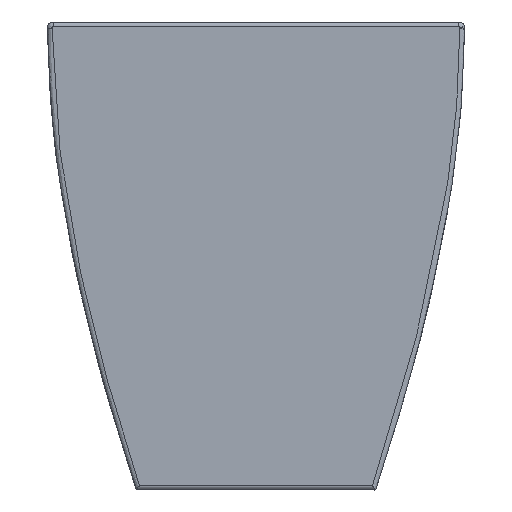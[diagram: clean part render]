
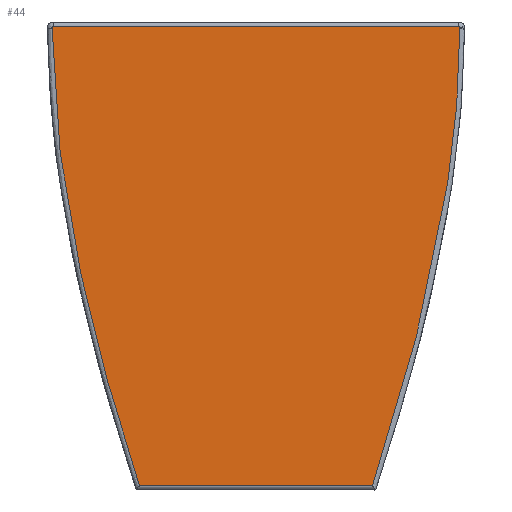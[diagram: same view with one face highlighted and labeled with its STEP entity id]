
A CAD part, front view. The second image highlights one B-rep face of the part: STEP entity #44.
In plain terms, the highlighted planar face has unit normal (0, -1, 0).
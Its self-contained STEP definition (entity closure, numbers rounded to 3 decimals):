
#44=ADVANCED_FACE('',(#84),#548,.T.);
#84=FACE_OUTER_BOUND('',#126,.T.);
#126=EDGE_LOOP('',(#268,#269,#270,#271,#272,#273,#274,#275));
#268=ORIENTED_EDGE('',*,*,#390,.T.);
#269=ORIENTED_EDGE('',*,*,#405,.T.);
#270=ORIENTED_EDGE('',*,*,#400,.T.);
#271=ORIENTED_EDGE('',*,*,#398,.T.);
#272=ORIENTED_EDGE('',*,*,#393,.T.);
#273=ORIENTED_EDGE('',*,*,#397,.T.);
#274=ORIENTED_EDGE('',*,*,#396,.T.);
#275=ORIENTED_EDGE('',*,*,#403,.T.);
#390=EDGE_CURVE('',#530,#531,#610,.T.);
#393=EDGE_CURVE('',#533,#534,#465,.T.);
#396=EDGE_CURVE('',#537,#535,#468,.T.);
#397=EDGE_CURVE('',#534,#537,#469,.T.);
#398=EDGE_CURVE('',#536,#533,#470,.T.);
#400=EDGE_CURVE('',#532,#536,#472,.T.);
#403=EDGE_CURVE('',#535,#530,#474,.T.);
#405=EDGE_CURVE('',#531,#532,#475,.T.);
#465=(
BOUNDED_CURVE()
B_SPLINE_CURVE(1,(#2482,#2483),.UNSPECIFIED.,.F.,.F.)
B_SPLINE_CURVE_WITH_KNOTS((2,2),(0.,355.503),
 .UNSPECIFIED.)
CURVE()
GEOMETRIC_REPRESENTATION_ITEM()
RATIONAL_B_SPLINE_CURVE((1.,1.))
REPRESENTATION_ITEM('')
);
#468=(
BOUNDED_CURVE()
B_SPLINE_CURVE(3,(#2492,#2493,#2494,#2495),.UNSPECIFIED.,.F.,.F.)
B_SPLINE_CURVE_WITH_KNOTS((4,4),(1.797,2.086),
 .UNSPECIFIED.)
CURVE()
GEOMETRIC_REPRESENTATION_ITEM()
RATIONAL_B_SPLINE_CURVE((1.,1.,1.,1.))
REPRESENTATION_ITEM('')
);
#469=(
BOUNDED_CURVE()
B_SPLINE_CURVE(3,(#2496,#2497,#2498,#2499,#2500,#2501,#2502,#2503),
 .UNSPECIFIED.,.F.,.F.)
B_SPLINE_CURVE_WITH_KNOTS((4,1,3,4),(0.,0.889,
1.789,1.797),.UNSPECIFIED.)
CURVE()
GEOMETRIC_REPRESENTATION_ITEM()
RATIONAL_B_SPLINE_CURVE((1.,1.,1.,1.,1.,1.,1.,1.))
REPRESENTATION_ITEM('')
);
#470=(
BOUNDED_CURVE()
B_SPLINE_CURVE(3,(#2504,#2505,#2506,#2507,#2508,#2509,#2510,#2511),
 .UNSPECIFIED.,.F.,.F.)
B_SPLINE_CURVE_WITH_KNOTS((4,3,1,4),(-0.009,-0.001,
0.9,1.8),.UNSPECIFIED.)
CURVE()
GEOMETRIC_REPRESENTATION_ITEM()
RATIONAL_B_SPLINE_CURVE((1.,1.,1.,1.,1.,1.,1.,1.))
REPRESENTATION_ITEM('')
);
#472=(
BOUNDED_CURVE()
B_SPLINE_CURVE(3,(#2517,#2518,#2519,#2520),.UNSPECIFIED.,.F.,.F.)
B_SPLINE_CURVE_WITH_KNOTS((4,4),(-0.366,-0.009),
 .UNSPECIFIED.)
CURVE()
GEOMETRIC_REPRESENTATION_ITEM()
RATIONAL_B_SPLINE_CURVE((1.,1.,1.,1.))
REPRESENTATION_ITEM('')
);
#474=(
BOUNDED_CURVE()
B_SPLINE_CURVE(3,(#2532,#2533,#2534,#2535,#2536,#2537,#2538),
 .UNSPECIFIED.,.F.,.F.)
B_SPLINE_CURVE_WITH_KNOTS((4,3,4),(-0.602,183.591,
408.833),.UNSPECIFIED.)
CURVE()
GEOMETRIC_REPRESENTATION_ITEM()
RATIONAL_B_SPLINE_CURVE((1.,1.,1.,1.,1.,1.,1.))
REPRESENTATION_ITEM('')
);
#475=(
BOUNDED_CURVE()
B_SPLINE_CURVE(3,(#2547,#2548,#2549,#2550,#2551,#2552,#2553),
 .UNSPECIFIED.,.F.,.F.)
B_SPLINE_CURVE_WITH_KNOTS((4,3,4),(2.882,228.127,412.258),
 .UNSPECIFIED.)
CURVE()
GEOMETRIC_REPRESENTATION_ITEM()
RATIONAL_B_SPLINE_CURVE((1.,1.,1.,1.,1.,1.,1.))
REPRESENTATION_ITEM('')
);
#530=VERTEX_POINT('',#1927);
#531=VERTEX_POINT('',#1928);
#532=VERTEX_POINT('',#1929);
#533=VERTEX_POINT('',#1930);
#534=VERTEX_POINT('',#1931);
#535=VERTEX_POINT('',#1932);
#536=VERTEX_POINT('',#1933);
#537=VERTEX_POINT('',#1934);
#548=PLANE('',#642);
#610=B_SPLINE_CURVE_WITH_KNOTS('',1,(#2475,#2476),.UNSPECIFIED.,.F.,.F.,
(2,2),(2.895,207.066),.UNSPECIFIED.);
#642=AXIS2_PLACEMENT_3D('',#1720,#652,$);
#652=DIRECTION('',(0.,-1.,0.));
#1720=CARTESIAN_POINT('',(-231.991,-20.001,53.));
#1927=CARTESIAN_POINT('',(-102.092,-20.,-405.998));
#1928=CARTESIAN_POINT('',(102.079,-20.,-405.998));
#1929=CARTESIAN_POINT('',(178.595,-20.001,-5.566));
#1930=CARTESIAN_POINT('',(177.748,-20.001,-4.));
#1931=CARTESIAN_POINT('',(-177.754,-20.001,-4.));
#1932=CARTESIAN_POINT('',(-178.614,-20.001,-5.501));
#1933=CARTESIAN_POINT('',(178.758,-20.001,-5.242));
#1934=CARTESIAN_POINT('',(-178.745,-20.001,-5.238));
#2475=CARTESIAN_POINT('',(-102.092,-20.,-405.998));
#2476=CARTESIAN_POINT('',(102.079,-20.,-405.998));
#2482=CARTESIAN_POINT('',(177.748,-20.001,-4.));
#2483=CARTESIAN_POINT('',(-177.754,-20.001,-4.));
#2492=CARTESIAN_POINT('',(-178.745,-20.001,-5.238));
#2493=CARTESIAN_POINT('',(-178.709,-20.001,-5.329));
#2494=CARTESIAN_POINT('',(-178.665,-20.001,-5.416));
#2495=CARTESIAN_POINT('',(-178.614,-20.001,-5.501));
#2496=CARTESIAN_POINT('',(-177.754,-20.001,-4.));
#2497=CARTESIAN_POINT('',(-178.049,-20.001,-3.994));
#2498=CARTESIAN_POINT('',(-178.645,-20.001,-4.296));
#2499=CARTESIAN_POINT('',(-178.817,-20.001,-4.935));
#2500=CARTESIAN_POINT('',(-178.747,-20.001,-5.229));
#2501=CARTESIAN_POINT('',(-178.746,-20.001,-5.232));
#2502=CARTESIAN_POINT('',(-178.745,-20.001,-5.235));
#2503=CARTESIAN_POINT('',(-178.745,-20.001,-5.238));
#2504=CARTESIAN_POINT('',(178.758,-20.001,-5.242));
#2505=CARTESIAN_POINT('',(178.759,-20.001,-5.239));
#2506=CARTESIAN_POINT('',(178.76,-20.001,-5.237));
#2507=CARTESIAN_POINT('',(178.76,-20.001,-5.234));
#2508=CARTESIAN_POINT('',(178.83,-20.001,-4.939));
#2509=CARTESIAN_POINT('',(178.653,-20.001,-4.296));
#2510=CARTESIAN_POINT('',(178.051,-20.001,-3.994));
#2511=CARTESIAN_POINT('',(177.748,-20.001,-4.));
#2517=CARTESIAN_POINT('',(178.595,-20.001,-5.566));
#2518=CARTESIAN_POINT('',(178.66,-20.001,-5.463));
#2519=CARTESIAN_POINT('',(178.715,-20.001,-5.355));
#2520=CARTESIAN_POINT('',(178.758,-20.001,-5.242));
#2532=CARTESIAN_POINT('',(-178.614,-20.001,-5.501));
#2533=CARTESIAN_POINT('',(-178.629,-20.,-66.936));
#2534=CARTESIAN_POINT('',(-171.31,-20.,-128.135));
#2535=CARTESIAN_POINT('',(-159.863,-20.,-188.467));
#2536=CARTESIAN_POINT('',(-145.866,-20.,-262.244));
#2537=CARTESIAN_POINT('',(-125.697,-20.,-334.724));
#2538=CARTESIAN_POINT('',(-102.092,-20.,-405.998));
#2547=CARTESIAN_POINT('',(102.079,-20.,-405.998));
#2548=CARTESIAN_POINT('',(125.688,-20.,-334.718));
#2549=CARTESIAN_POINT('',(145.839,-20.001,-262.257));
#2550=CARTESIAN_POINT('',(159.845,-20.001,-188.47));
#2551=CARTESIAN_POINT('',(171.294,-20.001,-128.152));
#2552=CARTESIAN_POINT('',(178.637,-20.001,-66.948));
#2553=CARTESIAN_POINT('',(178.595,-20.001,-5.566));
